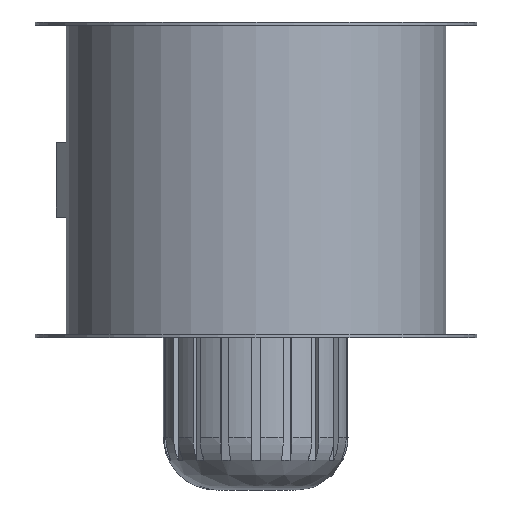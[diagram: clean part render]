
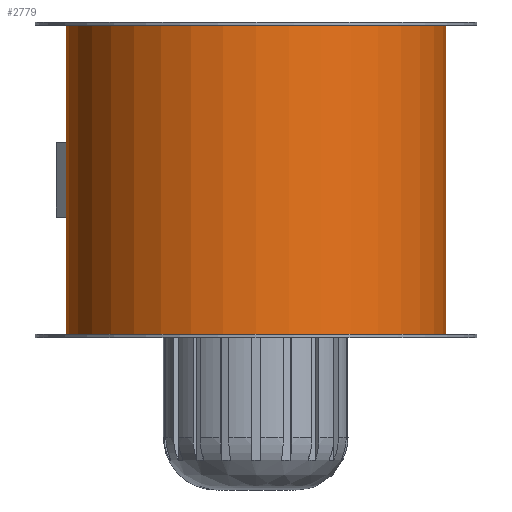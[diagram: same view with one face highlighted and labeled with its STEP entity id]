
A CAD part, front view. The second image highlights one B-rep face of the part: STEP entity #2779.
In plain terms, the highlighted cylindrical face has radius 180.5 mm (diameter 361 mm), a full revolution.
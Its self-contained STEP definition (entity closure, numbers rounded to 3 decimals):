
#227=FACE_BOUND('',#581,.T.);
#228=FACE_BOUND('',#582,.T.);
#354=CYLINDRICAL_SURFACE('',#2977,180.5);
#403=FACE_OUTER_BOUND('',#580,.T.);
#580=EDGE_LOOP('',(#1914));
#581=EDGE_LOOP('',(#1915,#1916,#1917,#1918));
#582=EDGE_LOOP('',(#1919));
#759=CIRCLE('',#2917,180.5);
#760=CIRCLE('',#2922,180.5);
#795=CIRCLE('',#2978,180.5);
#796=CIRCLE('',#2979,180.5);
#883=LINE('',#3967,#1013);
#884=LINE('',#3970,#1014);
#1013=VECTOR('',#3233,10.);
#1014=VECTOR('',#3236,10.);
#1136=VERTEX_POINT('',#3950);
#1139=VERTEX_POINT('',#3955);
#1142=VERTEX_POINT('',#3965);
#1143=VERTEX_POINT('',#3969);
#1187=VERTEX_POINT('',#4285);
#1188=VERTEX_POINT('',#4287);
#1435=EDGE_CURVE('',#1136,#1139,#759,.T.);
#1440=EDGE_CURVE('',#1139,#1142,#883,.T.);
#1441=EDGE_CURVE('',#1143,#1136,#884,.T.);
#1443=EDGE_CURVE('',#1142,#1143,#760,.T.);
#1487=EDGE_CURVE('',#1187,#1187,#795,.F.);
#1488=EDGE_CURVE('',#1188,#1188,#796,.T.);
#1914=ORIENTED_EDGE('',*,*,#1487,.T.);
#1915=ORIENTED_EDGE('',*,*,#1435,.T.);
#1916=ORIENTED_EDGE('',*,*,#1440,.T.);
#1917=ORIENTED_EDGE('',*,*,#1443,.T.);
#1918=ORIENTED_EDGE('',*,*,#1441,.T.);
#1919=ORIENTED_EDGE('',*,*,#1488,.T.);
#2779=ADVANCED_FACE('',(#403,#227,#228),#354,.T.);
#2917=AXIS2_PLACEMENT_3D('',#3957,#3223,#3224);
#2922=AXIS2_PLACEMENT_3D('',#3973,#3240,#3241);
#2977=AXIS2_PLACEMENT_3D('',#4284,#3350,#3351);
#2978=AXIS2_PLACEMENT_3D('',#4286,#3352,#3353);
#2979=AXIS2_PLACEMENT_3D('',#4288,#3354,#3355);
#3223=DIRECTION('center_axis',(0.,0.,-1.));
#3224=DIRECTION('ref_axis',(-1.,0.,0.));
#3233=DIRECTION('',(0.,0.,1.));
#3236=DIRECTION('',(0.,0.,-1.));
#3240=DIRECTION('center_axis',(0.,0.,1.));
#3241=DIRECTION('ref_axis',(-1.,0.,0.));
#3350=DIRECTION('center_axis',(0.,0.,1.));
#3351=DIRECTION('ref_axis',(-1.,0.,0.));
#3352=DIRECTION('center_axis',(0.,0.,-1.));
#3353=DIRECTION('ref_axis',(-1.,0.,0.));
#3354=DIRECTION('center_axis',(0.,0.,-1.));
#3355=DIRECTION('ref_axis',(-1.,0.,0.));
#3950=CARTESIAN_POINT('',(-150.242,100.038,-35.5));
#3955=CARTESIAN_POINT('',(-100.038,150.242,-35.5));
#3957=CARTESIAN_POINT('Origin',(0.,0.,-35.5));
#3965=CARTESIAN_POINT('',(-100.038,150.242,35.5));
#3967=CARTESIAN_POINT('',(-100.038,150.242,0.));
#3969=CARTESIAN_POINT('',(-150.242,100.038,35.5));
#3970=CARTESIAN_POINT('',(-150.242,100.038,0.));
#3973=CARTESIAN_POINT('Origin',(0.,0.,35.5));
#4284=CARTESIAN_POINT('Origin',(0.,0.,0.));
#4285=CARTESIAN_POINT('',(180.5,0.,-147.));
#4286=CARTESIAN_POINT('Origin',(0.,0.,-147.));
#4287=CARTESIAN_POINT('',(180.5,0.,147.));
#4288=CARTESIAN_POINT('Origin',(0.,0.,147.));
